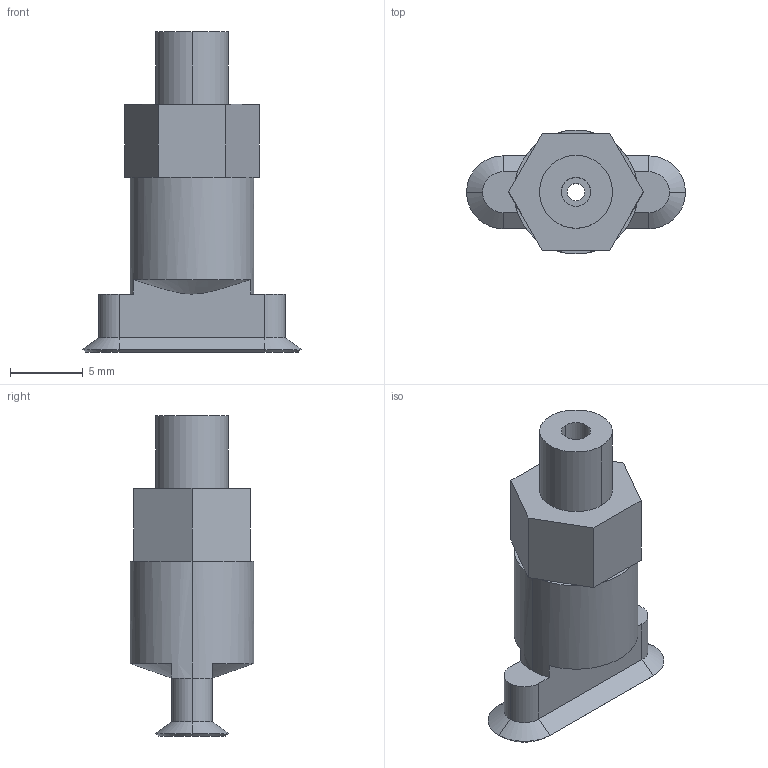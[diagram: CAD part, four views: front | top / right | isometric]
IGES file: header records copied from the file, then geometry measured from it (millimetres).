
Start section: 3D InterOp IGES (v. 2018 1.0.2), Spatial Corp. Copyright (c) 1999-2017.
Global section: file name: schmalz_10_01_05_00120_2igzkrxten7mayoczuou2js52.igs; native system: Spatial Corp.; preprocessor: 3D InterOp ACIS/IGES; author: TraceParts; organization: TraceParts S.A.; date: 20181121.072037; units: millimetre
Bounding box: 15 x 8.5 x 22 mm (x, y, z)
Surface area: 864.1 mm2 (no closed solid volume)
Topology: 0 solids, 0 shells, 63 faces, 288 edges, 288 vertices
Faces by surface type: extrusion 33, revolution 30
